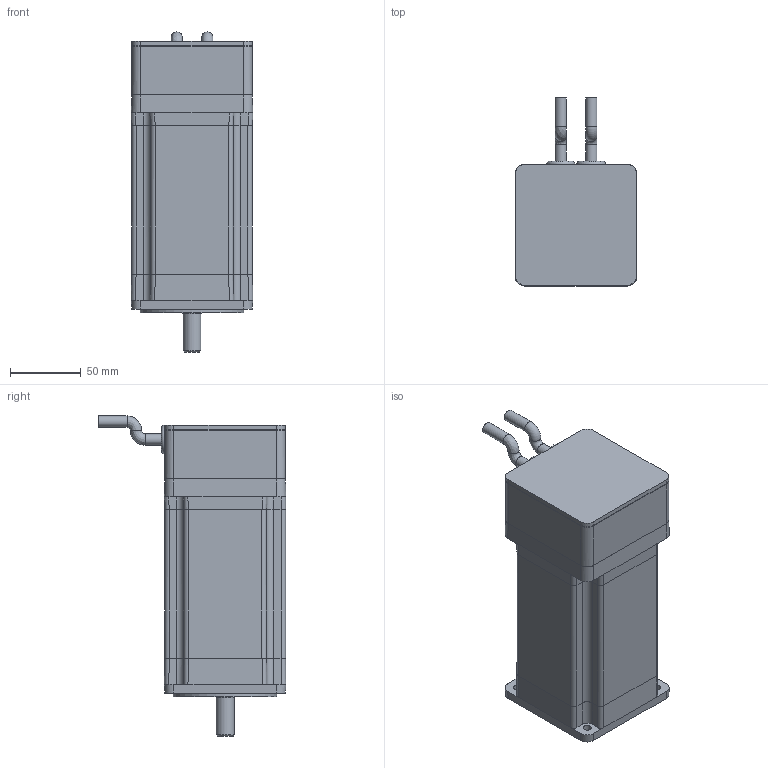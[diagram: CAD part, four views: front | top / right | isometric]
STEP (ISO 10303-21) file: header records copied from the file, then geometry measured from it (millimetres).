
FILE_DESCRIPTION((''),'2;1');
FILE_NAME('C:\CAD_work\Dummy_Modeling_Project_02-12-05\3D MODELS\BE344_CBL.stp','2005-12-20T16:04:41',('jevans'),(''),'Autodesk Inventor 10','Autodesk Inventor 10','');
FILE_SCHEMA(('AUTOMOTIVE_DESIGN { 1 0 10303 214 1 1 1 1 }'));
Length unit declared in the file: inch
Products named in the file (1): BE34_CBL
Bounding box: 85.66 x 132.36 x 225.84 mm (x, y, z)
Volume: 1277253 mm3; surface area: 91445.6 mm2
Topology: 4 solids, 4 shells, 214 faces, 520 edges, 323 vertices
Faces by surface type: plane 106, cylinder 84, bspline 15, cone 6, torus 3
Full cylindrical faces by diameter (mm): 2.5 x2, 7.95 x2, 12.7 x1, 14.994 x1, 15 x1, 20.32 x1, 32 x1, 32.007 x1, 35.001 x1, 36.779 x1, 37.109 x1, 41.326 x3, 73.025 x1
Entity records: 6415 total; most frequent: CARTESIAN_POINT 1476, DIRECTION 1068, ORIENTED_EDGE 940, EDGE_CURVE 470, AXIS2_PLACEMENT_3D 398, VERTEX_POINT 312, EDGE_LOOP 278, VECTOR 272
